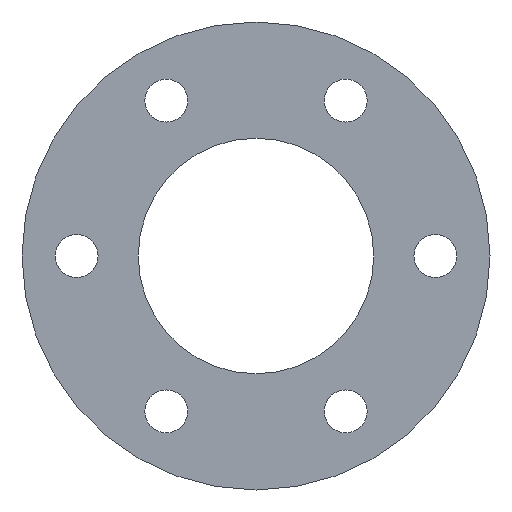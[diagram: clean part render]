
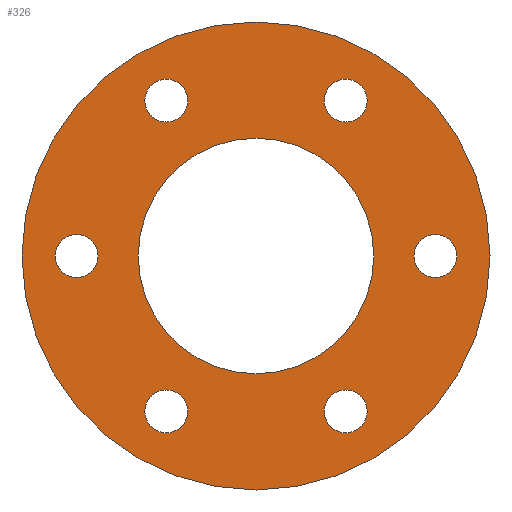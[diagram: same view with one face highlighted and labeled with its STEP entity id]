
A CAD part, left-side view. The second image highlights one B-rep face of the part: STEP entity #326.
In plain terms, the highlighted planar face has unit normal (-1, 0, 0).
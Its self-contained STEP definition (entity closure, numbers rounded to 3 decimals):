
#31 = CYLINDRICAL_SURFACE('',#32,30.);
#32 = AXIS2_PLACEMENT_3D('',#33,#34,#35);
#33 = CARTESIAN_POINT('',(8.,0.,0.));
#34 = DIRECTION('',(1.,0.,0.));
#35 = DIRECTION('',(0.,0.,-1.));
#56 = VERTEX_POINT('',#57);
#57 = CARTESIAN_POINT('',(8.,0.,-30.));
#78 = EDGE_CURVE('',#56,#56,#79,.T.);
#79 = SURFACE_CURVE('',#80,(#85,#92),.PCURVE_S1.);
#80 = CIRCLE('',#81,30.);
#81 = AXIS2_PLACEMENT_3D('',#82,#83,#84);
#82 = CARTESIAN_POINT('',(8.,0.,0.));
#83 = DIRECTION('',(1.,-0.,0.));
#84 = DIRECTION('',(0.,0.,-1.));
#85 = PCURVE('',#31,#86);
#86 = DEFINITIONAL_REPRESENTATION('',(#87),#91);
#87 = LINE('',#88,#89);
#88 = CARTESIAN_POINT('',(0.,0.));
#89 = VECTOR('',#90,1.);
#90 = DIRECTION('',(1.,0.));
#91 = ( GEOMETRIC_REPRESENTATION_CONTEXT(2) 
PARAMETRIC_REPRESENTATION_CONTEXT() REPRESENTATION_CONTEXT('2D SPACE',''
  ) );
#92 = PCURVE('',#93,#98);
#93 = PLANE('',#94);
#94 = AXIS2_PLACEMENT_3D('',#95,#96,#97);
#95 = CARTESIAN_POINT('',(8.,0.,0.));
#96 = DIRECTION('',(1.,0.,0.));
#97 = DIRECTION('',(0.,0.,-1.));
#98 = DEFINITIONAL_REPRESENTATION('',(#99),#103);
#99 = CIRCLE('',#100,30.);
#100 = AXIS2_PLACEMENT_2D('',#101,#102);
#101 = CARTESIAN_POINT('',(0.,0.));
#102 = DIRECTION('',(1.,0.));
#103 = ( GEOMETRIC_REPRESENTATION_CONTEXT(2) 
PARAMETRIC_REPRESENTATION_CONTEXT() REPRESENTATION_CONTEXT('2D SPACE',''
  ) );
#129 = CYLINDRICAL_SURFACE('',#130,2.75);
#130 = AXIS2_PLACEMENT_3D('',#131,#132,#133);
#131 = CARTESIAN_POINT('',(6.,-11.5,19.919));
#132 = DIRECTION('',(1.,0.,0.));
#133 = DIRECTION('',(0.,0.,-1.));
#160 = CYLINDRICAL_SURFACE('',#161,2.75);
#161 = AXIS2_PLACEMENT_3D('',#162,#163,#164);
#162 = CARTESIAN_POINT('',(6.,-23.,0.));
#163 = DIRECTION('',(1.,0.,0.));
#164 = DIRECTION('',(0.,0.,-1.));
#191 = CYLINDRICAL_SURFACE('',#192,15.1);
#192 = AXIS2_PLACEMENT_3D('',#193,#194,#195);
#193 = CARTESIAN_POINT('',(7.,0.,0.));
#194 = DIRECTION('',(1.,0.,0.));
#195 = DIRECTION('',(0.,0.,-1.));
#222 = CYLINDRICAL_SURFACE('',#223,2.75);
#223 = AXIS2_PLACEMENT_3D('',#224,#225,#226);
#224 = CARTESIAN_POINT('',(6.,-11.5,-19.919));
#225 = DIRECTION('',(1.,0.,0.));
#226 = DIRECTION('',(0.,0.,-1.));
#253 = CYLINDRICAL_SURFACE('',#254,2.75);
#254 = AXIS2_PLACEMENT_3D('',#255,#256,#257);
#255 = CARTESIAN_POINT('',(6.,11.5,19.919));
#256 = DIRECTION('',(1.,0.,0.));
#257 = DIRECTION('',(0.,0.,-1.));
#284 = CYLINDRICAL_SURFACE('',#285,2.75);
#285 = AXIS2_PLACEMENT_3D('',#286,#287,#288);
#286 = CARTESIAN_POINT('',(6.,11.5,-19.919));
#287 = DIRECTION('',(1.,0.,0.));
#288 = DIRECTION('',(0.,0.,-1.));
#315 = CYLINDRICAL_SURFACE('',#316,2.75);
#316 = AXIS2_PLACEMENT_3D('',#317,#318,#319);
#317 = CARTESIAN_POINT('',(6.,23.,0.));
#318 = DIRECTION('',(1.,0.,0.));
#319 = DIRECTION('',(0.,0.,-1.));
#326 = ADVANCED_FACE('',(#327,#330,#356,#382,#408,#434,#460,#486),#93,
  .F.);
#327 = FACE_BOUND('',#328,.F.);
#328 = EDGE_LOOP('',(#329));
#329 = ORIENTED_EDGE('',*,*,#78,.T.);
#330 = FACE_BOUND('',#331,.F.);
#331 = EDGE_LOOP('',(#332));
#332 = ORIENTED_EDGE('',*,*,#333,.F.);
#333 = EDGE_CURVE('',#334,#334,#336,.T.);
#334 = VERTEX_POINT('',#335);
#335 = CARTESIAN_POINT('',(8.,-11.5,17.169));
#336 = SURFACE_CURVE('',#337,(#342,#349),.PCURVE_S1.);
#337 = CIRCLE('',#338,2.75);
#338 = AXIS2_PLACEMENT_3D('',#339,#340,#341);
#339 = CARTESIAN_POINT('',(8.,-11.5,19.919));
#340 = DIRECTION('',(1.,0.,0.));
#341 = DIRECTION('',(0.,0.,-1.));
#342 = PCURVE('',#93,#343);
#343 = DEFINITIONAL_REPRESENTATION('',(#344),#348);
#344 = CIRCLE('',#345,2.75);
#345 = AXIS2_PLACEMENT_2D('',#346,#347);
#346 = CARTESIAN_POINT('',(-19.919,-11.5));
#347 = DIRECTION('',(1.,0.));
#348 = ( GEOMETRIC_REPRESENTATION_CONTEXT(2) 
PARAMETRIC_REPRESENTATION_CONTEXT() REPRESENTATION_CONTEXT('2D SPACE',''
  ) );
#349 = PCURVE('',#129,#350);
#350 = DEFINITIONAL_REPRESENTATION('',(#351),#355);
#351 = LINE('',#352,#353);
#352 = CARTESIAN_POINT('',(0.,2.));
#353 = VECTOR('',#354,1.);
#354 = DIRECTION('',(1.,0.));
#355 = ( GEOMETRIC_REPRESENTATION_CONTEXT(2) 
PARAMETRIC_REPRESENTATION_CONTEXT() REPRESENTATION_CONTEXT('2D SPACE',''
  ) );
#356 = FACE_BOUND('',#357,.F.);
#357 = EDGE_LOOP('',(#358));
#358 = ORIENTED_EDGE('',*,*,#359,.F.);
#359 = EDGE_CURVE('',#360,#360,#362,.T.);
#360 = VERTEX_POINT('',#361);
#361 = CARTESIAN_POINT('',(8.,-23.,-2.75));
#362 = SURFACE_CURVE('',#363,(#368,#375),.PCURVE_S1.);
#363 = CIRCLE('',#364,2.75);
#364 = AXIS2_PLACEMENT_3D('',#365,#366,#367);
#365 = CARTESIAN_POINT('',(8.,-23.,0.));
#366 = DIRECTION('',(1.,0.,0.));
#367 = DIRECTION('',(0.,0.,-1.));
#368 = PCURVE('',#93,#369);
#369 = DEFINITIONAL_REPRESENTATION('',(#370),#374);
#370 = CIRCLE('',#371,2.75);
#371 = AXIS2_PLACEMENT_2D('',#372,#373);
#372 = CARTESIAN_POINT('',(0.,-23.));
#373 = DIRECTION('',(1.,0.));
#374 = ( GEOMETRIC_REPRESENTATION_CONTEXT(2) 
PARAMETRIC_REPRESENTATION_CONTEXT() REPRESENTATION_CONTEXT('2D SPACE',''
  ) );
#375 = PCURVE('',#160,#376);
#376 = DEFINITIONAL_REPRESENTATION('',(#377),#381);
#377 = LINE('',#378,#379);
#378 = CARTESIAN_POINT('',(0.,2.));
#379 = VECTOR('',#380,1.);
#380 = DIRECTION('',(1.,0.));
#381 = ( GEOMETRIC_REPRESENTATION_CONTEXT(2) 
PARAMETRIC_REPRESENTATION_CONTEXT() REPRESENTATION_CONTEXT('2D SPACE',''
  ) );
#382 = FACE_BOUND('',#383,.F.);
#383 = EDGE_LOOP('',(#384));
#384 = ORIENTED_EDGE('',*,*,#385,.F.);
#385 = EDGE_CURVE('',#386,#386,#388,.T.);
#386 = VERTEX_POINT('',#387);
#387 = CARTESIAN_POINT('',(8.,0.,-15.1));
#388 = SURFACE_CURVE('',#389,(#394,#401),.PCURVE_S1.);
#389 = CIRCLE('',#390,15.1);
#390 = AXIS2_PLACEMENT_3D('',#391,#392,#393);
#391 = CARTESIAN_POINT('',(8.,0.,0.));
#392 = DIRECTION('',(1.,0.,0.));
#393 = DIRECTION('',(0.,0.,-1.));
#394 = PCURVE('',#93,#395);
#395 = DEFINITIONAL_REPRESENTATION('',(#396),#400);
#396 = CIRCLE('',#397,15.1);
#397 = AXIS2_PLACEMENT_2D('',#398,#399);
#398 = CARTESIAN_POINT('',(0.,0.));
#399 = DIRECTION('',(1.,0.));
#400 = ( GEOMETRIC_REPRESENTATION_CONTEXT(2) 
PARAMETRIC_REPRESENTATION_CONTEXT() REPRESENTATION_CONTEXT('2D SPACE',''
  ) );
#401 = PCURVE('',#191,#402);
#402 = DEFINITIONAL_REPRESENTATION('',(#403),#407);
#403 = LINE('',#404,#405);
#404 = CARTESIAN_POINT('',(0.,1.));
#405 = VECTOR('',#406,1.);
#406 = DIRECTION('',(1.,0.));
#407 = ( GEOMETRIC_REPRESENTATION_CONTEXT(2) 
PARAMETRIC_REPRESENTATION_CONTEXT() REPRESENTATION_CONTEXT('2D SPACE',''
  ) );
#408 = FACE_BOUND('',#409,.F.);
#409 = EDGE_LOOP('',(#410));
#410 = ORIENTED_EDGE('',*,*,#411,.F.);
#411 = EDGE_CURVE('',#412,#412,#414,.T.);
#412 = VERTEX_POINT('',#413);
#413 = CARTESIAN_POINT('',(8.,-11.5,-22.669));
#414 = SURFACE_CURVE('',#415,(#420,#427),.PCURVE_S1.);
#415 = CIRCLE('',#416,2.75);
#416 = AXIS2_PLACEMENT_3D('',#417,#418,#419);
#417 = CARTESIAN_POINT('',(8.,-11.5,-19.919));
#418 = DIRECTION('',(1.,0.,0.));
#419 = DIRECTION('',(0.,0.,-1.));
#420 = PCURVE('',#93,#421);
#421 = DEFINITIONAL_REPRESENTATION('',(#422),#426);
#422 = CIRCLE('',#423,2.75);
#423 = AXIS2_PLACEMENT_2D('',#424,#425);
#424 = CARTESIAN_POINT('',(19.919,-11.5));
#425 = DIRECTION('',(1.,0.));
#426 = ( GEOMETRIC_REPRESENTATION_CONTEXT(2) 
PARAMETRIC_REPRESENTATION_CONTEXT() REPRESENTATION_CONTEXT('2D SPACE',''
  ) );
#427 = PCURVE('',#222,#428);
#428 = DEFINITIONAL_REPRESENTATION('',(#429),#433);
#429 = LINE('',#430,#431);
#430 = CARTESIAN_POINT('',(0.,2.));
#431 = VECTOR('',#432,1.);
#432 = DIRECTION('',(1.,0.));
#433 = ( GEOMETRIC_REPRESENTATION_CONTEXT(2) 
PARAMETRIC_REPRESENTATION_CONTEXT() REPRESENTATION_CONTEXT('2D SPACE',''
  ) );
#434 = FACE_BOUND('',#435,.F.);
#435 = EDGE_LOOP('',(#436));
#436 = ORIENTED_EDGE('',*,*,#437,.F.);
#437 = EDGE_CURVE('',#438,#438,#440,.T.);
#438 = VERTEX_POINT('',#439);
#439 = CARTESIAN_POINT('',(8.,11.5,17.169));
#440 = SURFACE_CURVE('',#441,(#446,#453),.PCURVE_S1.);
#441 = CIRCLE('',#442,2.75);
#442 = AXIS2_PLACEMENT_3D('',#443,#444,#445);
#443 = CARTESIAN_POINT('',(8.,11.5,19.919));
#444 = DIRECTION('',(1.,0.,0.));
#445 = DIRECTION('',(0.,0.,-1.));
#446 = PCURVE('',#93,#447);
#447 = DEFINITIONAL_REPRESENTATION('',(#448),#452);
#448 = CIRCLE('',#449,2.75);
#449 = AXIS2_PLACEMENT_2D('',#450,#451);
#450 = CARTESIAN_POINT('',(-19.919,11.5));
#451 = DIRECTION('',(1.,0.));
#452 = ( GEOMETRIC_REPRESENTATION_CONTEXT(2) 
PARAMETRIC_REPRESENTATION_CONTEXT() REPRESENTATION_CONTEXT('2D SPACE',''
  ) );
#453 = PCURVE('',#253,#454);
#454 = DEFINITIONAL_REPRESENTATION('',(#455),#459);
#455 = LINE('',#456,#457);
#456 = CARTESIAN_POINT('',(0.,2.));
#457 = VECTOR('',#458,1.);
#458 = DIRECTION('',(1.,0.));
#459 = ( GEOMETRIC_REPRESENTATION_CONTEXT(2) 
PARAMETRIC_REPRESENTATION_CONTEXT() REPRESENTATION_CONTEXT('2D SPACE',''
  ) );
#460 = FACE_BOUND('',#461,.F.);
#461 = EDGE_LOOP('',(#462));
#462 = ORIENTED_EDGE('',*,*,#463,.F.);
#463 = EDGE_CURVE('',#464,#464,#466,.T.);
#464 = VERTEX_POINT('',#465);
#465 = CARTESIAN_POINT('',(8.,11.5,-22.669));
#466 = SURFACE_CURVE('',#467,(#472,#479),.PCURVE_S1.);
#467 = CIRCLE('',#468,2.75);
#468 = AXIS2_PLACEMENT_3D('',#469,#470,#471);
#469 = CARTESIAN_POINT('',(8.,11.5,-19.919));
#470 = DIRECTION('',(1.,0.,0.));
#471 = DIRECTION('',(0.,0.,-1.));
#472 = PCURVE('',#93,#473);
#473 = DEFINITIONAL_REPRESENTATION('',(#474),#478);
#474 = CIRCLE('',#475,2.75);
#475 = AXIS2_PLACEMENT_2D('',#476,#477);
#476 = CARTESIAN_POINT('',(19.919,11.5));
#477 = DIRECTION('',(1.,0.));
#478 = ( GEOMETRIC_REPRESENTATION_CONTEXT(2) 
PARAMETRIC_REPRESENTATION_CONTEXT() REPRESENTATION_CONTEXT('2D SPACE',''
  ) );
#479 = PCURVE('',#284,#480);
#480 = DEFINITIONAL_REPRESENTATION('',(#481),#485);
#481 = LINE('',#482,#483);
#482 = CARTESIAN_POINT('',(0.,2.));
#483 = VECTOR('',#484,1.);
#484 = DIRECTION('',(1.,0.));
#485 = ( GEOMETRIC_REPRESENTATION_CONTEXT(2) 
PARAMETRIC_REPRESENTATION_CONTEXT() REPRESENTATION_CONTEXT('2D SPACE',''
  ) );
#486 = FACE_BOUND('',#487,.F.);
#487 = EDGE_LOOP('',(#488));
#488 = ORIENTED_EDGE('',*,*,#489,.F.);
#489 = EDGE_CURVE('',#490,#490,#492,.T.);
#490 = VERTEX_POINT('',#491);
#491 = CARTESIAN_POINT('',(8.,23.,-2.75));
#492 = SURFACE_CURVE('',#493,(#498,#505),.PCURVE_S1.);
#493 = CIRCLE('',#494,2.75);
#494 = AXIS2_PLACEMENT_3D('',#495,#496,#497);
#495 = CARTESIAN_POINT('',(8.,23.,0.));
#496 = DIRECTION('',(1.,0.,0.));
#497 = DIRECTION('',(0.,0.,-1.));
#498 = PCURVE('',#93,#499);
#499 = DEFINITIONAL_REPRESENTATION('',(#500),#504);
#500 = CIRCLE('',#501,2.75);
#501 = AXIS2_PLACEMENT_2D('',#502,#503);
#502 = CARTESIAN_POINT('',(0.,23.));
#503 = DIRECTION('',(1.,0.));
#504 = ( GEOMETRIC_REPRESENTATION_CONTEXT(2) 
PARAMETRIC_REPRESENTATION_CONTEXT() REPRESENTATION_CONTEXT('2D SPACE',''
  ) );
#505 = PCURVE('',#315,#506);
#506 = DEFINITIONAL_REPRESENTATION('',(#507),#511);
#507 = LINE('',#508,#509);
#508 = CARTESIAN_POINT('',(0.,2.));
#509 = VECTOR('',#510,1.);
#510 = DIRECTION('',(1.,0.));
#511 = ( GEOMETRIC_REPRESENTATION_CONTEXT(2) 
PARAMETRIC_REPRESENTATION_CONTEXT() REPRESENTATION_CONTEXT('2D SPACE',''
  ) );
